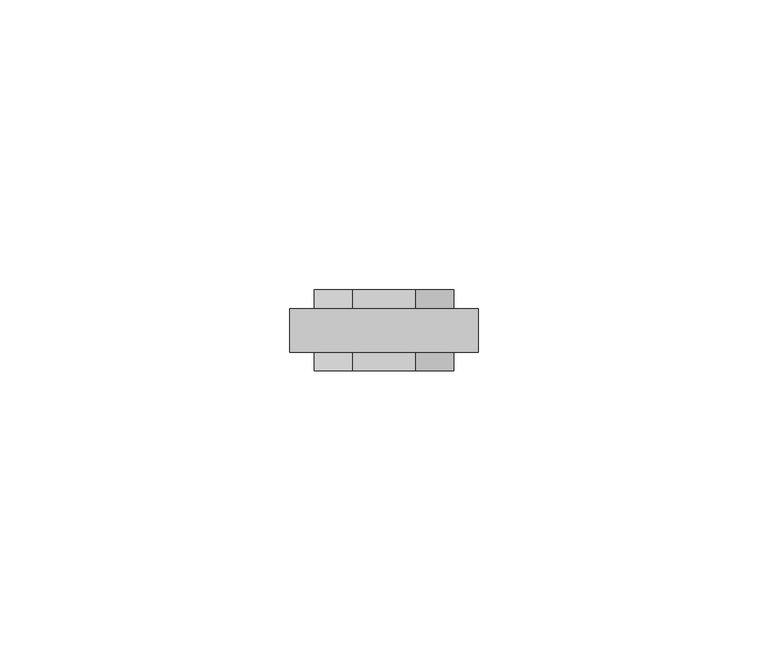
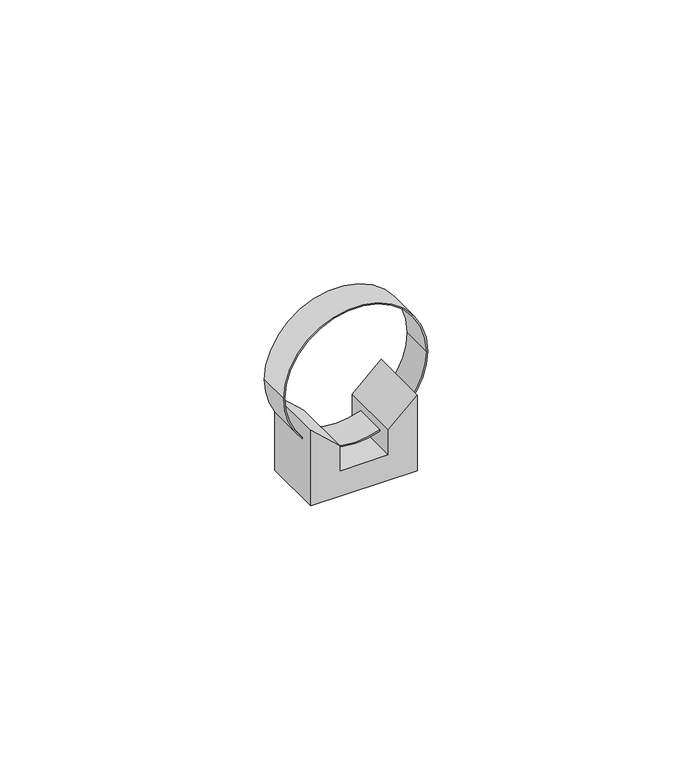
"""IFC4 building model written with IfcOpenShell, lengths in millimetres: cable carrier fitting geometry, КНС_ДержательСХомутиком_DKC : д.16 - 32мм."""

from ifc_helpers import new_model, si_unit, frame, origin, place, context, project, spatial, polyline, circle_curve, source, transform, mapped, element, save
from ifc_brep_helpers import plane_surface, cylinder_surface, revolved_surface, advanced_brep


def cable_carrier_fitting_6d12a164(model_context):
    return source(origin(), model_context, "Body", "AdvancedBrep", [
        advanced_brep(
        [(-16.0, -3.75, 25.0), (16.0, -3.75, 25.0), (12.0, -3.75, 14.4169948), (12.0, -3.75, 14.0426965), (16.25, -3.75, 25.0), (-16.25, -3.75, 25.0), (-12.0, -3.75, 14.0426965), (-12.0, -3.75, 14.4169948), (5.5, -3.75, 9.9750208), (-5.5, -3.75, 9.9750208), (-5.5, -3.75, 9.7090713), (5.5, -3.75, 9.7090713), (16.0, 3.75, 25.0), (-16.0, 3.75, 25.0), (-12.0, 3.75, 14.4169948), (-12.0, 3.75, 14.0426965), (-16.25, 3.75, 25.0), (16.25, 3.75, 25.0), (12.0, 3.75, 14.0426965), (12.0, 3.75, 14.4169948), (-5.5, 3.75, 9.9750208), (5.5, 3.75, 9.9750208), (5.5, 3.75, 9.7090713), (-5.5, 3.75, 9.7090713), (12.0, -7.0, 0.0), (12.0, -7.0, 18.0), (5.5, -7.0, 12.0), (5.5, -7.0, 6.0), (-5.5, -7.0, 6.0), (-5.5, -7.0, 12.0), (-12.0, -7.0, 18.0), (-12.0, -7.0, 0.0), (12.0, 7.0, 0.0), (-12.0, 7.0, 0.0), (-12.0, 7.0, 18.0), (-5.5, 7.0, 12.0), (-5.5, 7.0, 6.0), (5.5, 7.0, 6.0), (5.5, 7.0, 12.0), (12.0, 7.0, 18.0)],
        [
            (0, 1, circle_curve(frame((0.0, -3.75, 25.0), z_axis=(0.0, 1.0, 0.0), x_axis=(1.0, 0.0, 0.0)), 16.0)),
            (1, 2, circle_curve(frame((0.0, -3.75, 25.0), z_axis=(0.0, 1.0, 0.0), x_axis=(1.0, 0.0, 0.0)), 16.0)),
            (2, 3),
            (3, 4, circle_curve(frame((0.0, -3.75, 25.0), z_axis=(0.0, -1.0, 0.0), x_axis=(1.0, 0.0, 0.0)), 16.25)),
            (4, 5, circle_curve(frame((0.0, -3.75, 25.0), z_axis=(0.0, -1.0, 0.0), x_axis=(1.0, 0.0, 0.0)), 16.25)),
            (5, 6, circle_curve(frame((0.0, -3.75, 25.0), z_axis=(0.0, -1.0, 0.0), x_axis=(1.0, 0.0, 0.0)), 16.25)),
            (6, 7),
            (7, 0, circle_curve(frame((0.0, -3.75, 25.0), z_axis=(0.0, 1.0, 0.0), x_axis=(1.0, 0.0, 0.0)), 16.0)),
            (8, 9, circle_curve(frame((0.0, -3.75, 25.0), z_axis=(0.0, 1.0, 0.0), x_axis=(1.0, 0.0, 0.0)), 16.0)),
            (9, 10),
            (10, 11, circle_curve(frame((0.0, -3.75, 25.0), z_axis=(0.0, -1.0, 0.0), x_axis=(1.0, 0.0, 0.0)), 16.25)),
            (11, 8),
            (12, 13, circle_curve(frame((0.0, 3.75, 25.0), z_axis=(0.0, -1.0, 0.0), x_axis=(1.0, 0.0, 0.0)), 16.0)),
            (13, 14, circle_curve(frame((0.0, 3.75, 25.0), z_axis=(0.0, -1.0, 0.0), x_axis=(1.0, 0.0, 0.0)), 16.0)),
            (14, 15),
            (15, 16, circle_curve(frame((0.0, 3.75, 25.0), z_axis=(0.0, 1.0, 0.0), x_axis=(1.0, 0.0, 0.0)), 16.25)),
            (16, 17, circle_curve(frame((0.0, 3.75, 25.0), z_axis=(0.0, 1.0, 0.0), x_axis=(1.0, 0.0, 0.0)), 16.25)),
            (17, 18, circle_curve(frame((0.0, 3.75, 25.0), z_axis=(0.0, 1.0, 0.0), x_axis=(1.0, 0.0, 0.0)), 16.25)),
            (18, 19),
            (19, 12, circle_curve(frame((0.0, 3.75, 25.0), z_axis=(0.0, -1.0, 0.0), x_axis=(1.0, 0.0, 0.0)), 16.0)),
            (20, 21, circle_curve(frame((0.0, 3.75, 25.0), z_axis=(0.0, -1.0, 0.0), x_axis=(1.0, 0.0, 0.0)), 16.0)),
            (21, 22),
            (22, 23, circle_curve(frame((0.0, 3.75, 25.0), z_axis=(0.0, 1.0, 0.0), x_axis=(1.0, 0.0, 0.0)), 16.25)),
            (23, 20),
            (0, 13),
            (12, 1),
            (8, 21),
            (20, 9),
            (7, 14),
            (19, 2),
            (10, 23),
            (22, 11),
            (5, 16),
            (15, 6),
            (17, 4),
            (3, 18),
            (24, 25),
            (25, 26),
            (26, 27),
            (27, 28),
            (28, 29),
            (29, 30),
            (30, 31),
            (31, 24),
            (32, 33),
            (33, 34),
            (34, 35),
            (35, 36),
            (36, 37),
            (37, 38),
            (38, 39),
            (39, 32),
            (24, 32),
            (39, 25),
            (38, 26),
            (37, 27),
            (36, 28),
            (35, 29),
            (34, 30),
            (33, 31),
        ],
        [
            plane_surface(frame((16.0, -3.75, 25.0), z_axis=(0.0, -1.0, 0.0), x_axis=(0.0, 0.0, -1.0))),
            plane_surface(frame((16.0, 3.75, 25.0), z_axis=(0.0, 1.0, 0.0), x_axis=(0.0, 0.0, 1.0))),
            revolved_surface(polyline([(16.0, 3.75, 25.0), (16.0, -3.75, 25.0)]), (0.0, 3.75, 25.0), (0.0, 1.0, 0.0)),
            cylinder_surface(frame((0.0, 0.0, 25.0), z_axis=(0.0, -1.0, 0.0), x_axis=(1.0, 0.0, 0.0)), 16.25),
            plane_surface(frame((12.0, -7.0, 18.0), z_axis=(0.0, -1.0, 0.0), x_axis=(0.0, 0.0, 1.0))),
            plane_surface(frame((12.0, 7.0, 18.0), z_axis=(0.0, 1.0, 0.0), x_axis=(0.0, 0.0, -1.0))),
            plane_surface(frame((12.0, -7.0, 0.0), z_axis=(1.0, 0.0, 0.0), x_axis=(0.0, 1.0, 0.0))),
            plane_surface(frame((12.0, -7.0, 18.0), z_axis=(-0.6782801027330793, 0.0, 0.7348034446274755), x_axis=(0.0, 1.0, 0.0))),
            plane_surface(frame((5.5, -7.0, 12.0), z_axis=(-1.0, 0.0, 0.0), x_axis=(0.0, 1.0, 0.0))),
            plane_surface(frame((5.5, -7.0, 6.0), z_axis=(0.0, 0.0, 1.0), x_axis=(0.0, 1.0, 0.0))),
            plane_surface(frame((-5.5, -7.0, 6.0), z_axis=(1.0, 0.0, 0.0), x_axis=(0.0, 1.0, 0.0))),
            plane_surface(frame((-5.5, -7.0, 12.0), z_axis=(0.6782801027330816, 0.0, 0.7348034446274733), x_axis=(0.0, 1.0, 0.0))),
            plane_surface(frame((-12.0, -7.0, 18.0), z_axis=(-1.0, 0.0, 0.0), x_axis=(0.0, 1.0, 0.0))),
            plane_surface(frame((-12.0, -7.0, 0.0), z_axis=(0.0, 0.0, -1.0), x_axis=(0.0, 1.0, 0.0))),
        ],
        [
            (0, [[1, 2, 3, 4, 5, 6, 7, 8]]),
            (0, [[9, 10, 11, 12]]),
            (1, [[13, 14, 15, 16, 17, 18, 19, 20]]),
            (1, [[21, 22, 23, 24]]),
            (2, [[-1, 25, -13, 26]]),
            (2, [[-9, 27, -21, 28]]),
            (2, [[-25, -8, 29, -14]]),
            (2, [[-26, -20, 30, -2]]),
            (3, [[-11, 31, -23, 32]]),
            (3, [[33, -16, 34, -6]]),
            (3, [[35, -4, 36, -18]]),
            (3, [[-5, -35, -17, -33]]),
            (4, [[37, 38, 39, 40, 41, 42, 43, 44]]),
            (5, [[45, 46, 47, 48, 49, 50, 51, 52]]),
            (6, [[-37, 53, -52, 54], [-3, -30, -19, -36]]),
            (7, [[-38, -54, -51, 55]]),
            (8, [[-39, -55, -50, 56], [-12, -32, -22, -27]]),
            (9, [[-40, -56, -49, 57]]),
            (10, [[-41, -57, -48, 58], [-10, -28, -24, -31]]),
            (11, [[-42, -58, -47, 59]]),
            (12, [[-43, -59, -46, 60], [-7, -34, -15, -29]]),
            (13, [[-44, -60, -45, -53]]),
        ],
    ),
    ])


if __name__ == "__main__":
    model = new_model("IFC4")
    model_context = context("Model", 3, world=origin())
    ifc_project = project(units=[si_unit("LENGTHUNIT", "METRE", prefix="MILLI")], contexts=[model_context])
    site = spatial("IfcSite", under=ifc_project)
    building = spatial("IfcBuilding", under=site)
    placement = place(None, origin())
    cable_carrier_fitting_shape = cable_carrier_fitting_6d12a164(model_context)
    element("IfcCableCarrierFitting", 1, ObjectType="КНС_ДержательСХомутиком_DKC : д.16 - 32мм", at=placement, inside=building, context=model_context, shape_type="MappedRepresentation", body=[
        mapped(cable_carrier_fitting_shape, transform((0.0, 0.0, 0.0), x_axis=(1.0, 0.0, 0.0), y_axis=(0.0, 1.0, 0.0), z_axis=(0.0, 0.0, 1.0))),
    ])
    save(model, "model.ifc")
